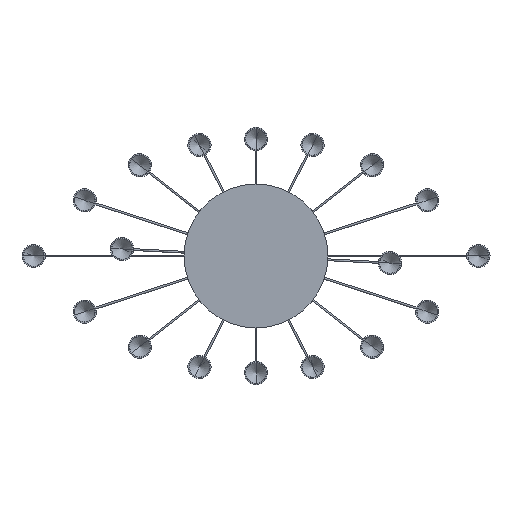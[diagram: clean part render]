
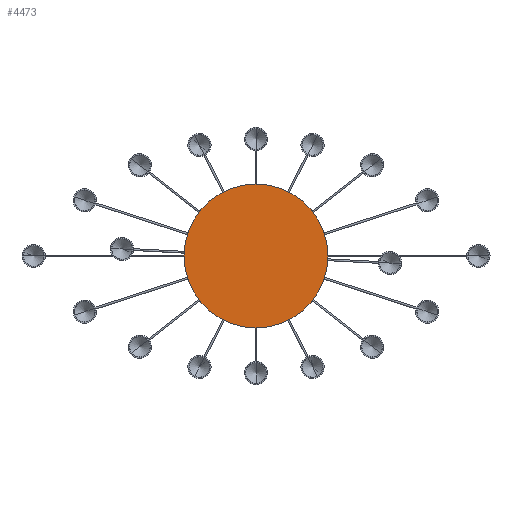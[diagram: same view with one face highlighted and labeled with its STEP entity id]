
A CAD part, front view. The second image highlights one B-rep face of the part: STEP entity #4473.
In plain terms, the highlighted planar face has unit normal (0, -1, 0).
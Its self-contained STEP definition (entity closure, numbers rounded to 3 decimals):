
#6 = CARTESIAN_POINT ( 'NONE',  ( 0., 0., 0. ) ) ;
#413 = AXIS2_PLACEMENT_3D ( 'NONE', #1448, #6345, #4548 ) ;
#417 = AXIS2_PLACEMENT_3D ( 'NONE', #6, #2508, #4964 ) ;
#664 = FACE_OUTER_BOUND ( 'NONE', #3575, .T. ) ;
#714 = AXIS2_PLACEMENT_3D ( 'NONE', #1979, #6888, #5057 ) ;
#733 = EDGE_CURVE ( 'NONE', #7036, #2650, #1242, .T. ) ;
#1242 = CIRCLE ( 'NONE', #714, 155. ) ;
#1448 = CARTESIAN_POINT ( 'NONE',  ( 0., 0., 0. ) ) ;
#1979 = CARTESIAN_POINT ( 'NONE',  ( 0., 0., 0. ) ) ;
#2508 = DIRECTION ( 'NONE',  ( 0., 1., 0. ) ) ;
#2650 = VERTEX_POINT ( 'NONE', #3795 ) ;
#2801 = ORIENTED_EDGE ( 'NONE', *, *, #4699, .F. ) ;
#3575 = EDGE_LOOP ( 'NONE', ( #7241, #2801 ) ) ;
#3795 = CARTESIAN_POINT ( 'NONE',  ( 0., 0., 155. ) ) ;
#4256 = CARTESIAN_POINT ( 'NONE',  ( 0., 0., -155. ) ) ;
#4473 = ADVANCED_FACE ( 'NONE', ( #664 ), #5656, .F. ) ;
#4548 = DIRECTION ( 'NONE',  ( 0., 0., 1. ) ) ;
#4699 = EDGE_CURVE ( 'NONE', #2650, #7036, #5380, .T. ) ;
#4964 = DIRECTION ( 'NONE',  ( 0., 0., 1. ) ) ;
#5057 = DIRECTION ( 'NONE',  ( 0., 0., 1. ) ) ;
#5380 = CIRCLE ( 'NONE', #417, 155. ) ;
#5656 = PLANE ( 'NONE',  #413 ) ;
#6345 = DIRECTION ( 'NONE',  ( 0., 1., 0. ) ) ;
#6888 = DIRECTION ( 'NONE',  ( 0., 1., 0. ) ) ;
#7036 = VERTEX_POINT ( 'NONE', #4256 ) ;
#7241 = ORIENTED_EDGE ( 'NONE', *, *, #733, .F. ) ;
